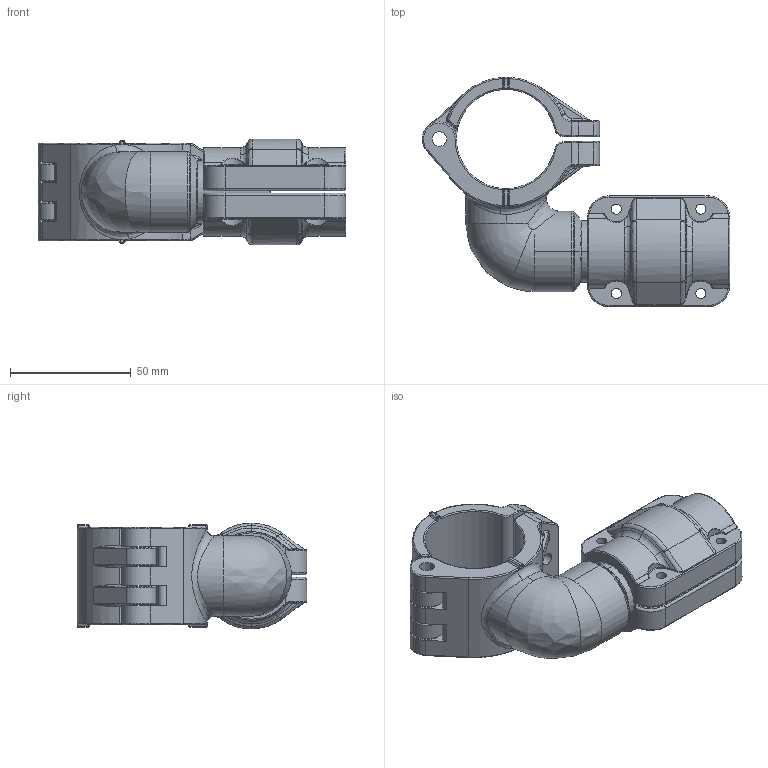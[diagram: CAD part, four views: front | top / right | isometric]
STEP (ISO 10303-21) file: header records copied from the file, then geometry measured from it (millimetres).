
FILE_DESCRIPTION((''),'2;1');
FILE_NAME('2015421099_ASM_4_ASM','2017-05-15T',('Administrator'),(''),'PRO/ENGINEER BY PARAMETRIC TECHNOLOGY CORPORATION, 2009360','PRO/ENGINEER BY PARAMETRIC TECHNOLOGY CORPORATION, 2009360','');
FILE_SCHEMA(('AUTOMOTIVE_DESIGN_CC2 { 1 2 10303 214 -1 1 5 2 }'));
Length unit declared in the file: millimetre
Products named in the file (8): MANIFOLD_SOLID_BREP_96_2_1; MANIFOLD_SOLID_BREP_97_1_1; 2015421000_ASM_3_ASM_1_ASM; 2015421000_ASM_ASM_1_ASM; 201520020000_23_1; 201520020001_10_1; 2015200200_ASM_1_ASM; 2015421099_ASM_4_ASM
Assembly tree (7 placements, depth 4):
  2015421099_ASM_4_ASM
    2015421000_ASM_ASM_1_ASM
      2015421000_ASM_3_ASM_1_ASM
        MANIFOLD_SOLID_BREP_96_2_1
        MANIFOLD_SOLID_BREP_97_1_1
    2015200200_ASM_1_ASM
      201520020000_23_1
      201520020001_10_1
Bounding box: 127.48 x 95.2 x 43.8 mm (x, y, z)
Volume: 124481.9 mm3; surface area: 48545.6 mm2
Topology: 4 solids, 4 shells, 666 faces, 1633 edges, 941 vertices
Faces by surface type: cylinder 218, bspline 197, torus 144, plane 75, sphere 24, cone 8
Entity records: 33547 total; most frequent: CARTESIAN_POINT 14158, ORIENTED_EDGE 3192, DIRECTION 2890, PRESENTATION_STYLE_ASSIGNMENT 1600, STYLED_ITEM 1600, CURVE_STYLE 1596, EDGE_CURVE 1596, AXIS2_PLACEMENT_3D 1263
